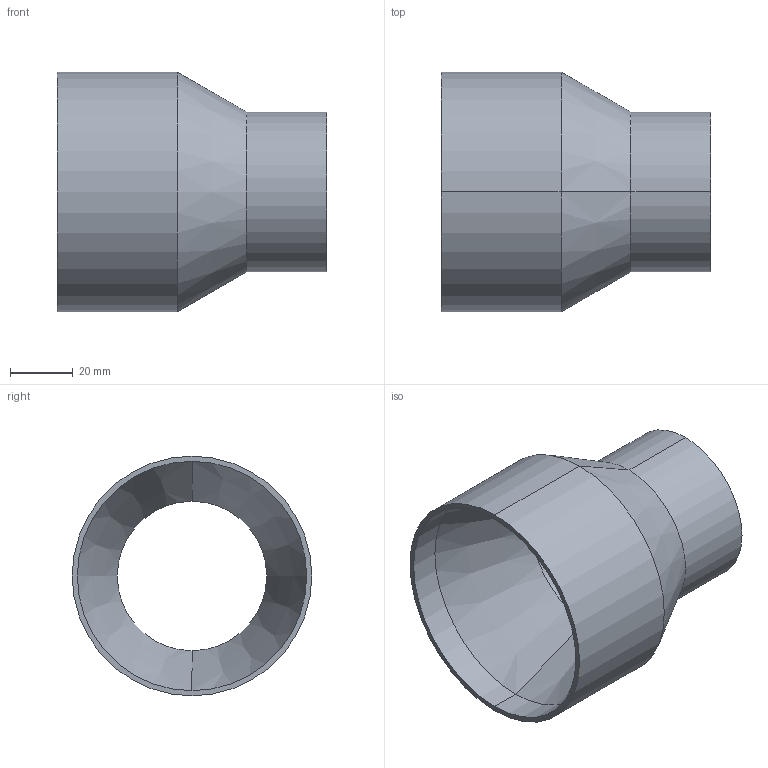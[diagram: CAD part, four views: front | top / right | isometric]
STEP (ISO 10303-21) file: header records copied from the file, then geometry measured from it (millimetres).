
FILE_DESCRIPTION (( 'STEP AP214' ), '1' );
FILE_NAME ('TE31SWW6L3.0x2.0-...STEP', '2016-05-29T09:58:59', ( 'eran' ), ( '' ), 'SwSTEP 2.0', 'SolidWorks 2016', '' );
FILE_SCHEMA (( 'AUTOMOTIVE_DESIGN' ));
Length unit declared in the file: millimetre
Products named in the file (1): TE31SWW6L3.0x2.0-..
Bounding box: 85.72 x 76.2 x 76.2 mm (x, y, z)
Volume: 86933.2 mm3; surface area: 34189.5 mm2
Topology: 1 solids, 1 shells, 14 faces, 28 edges, 16 vertices
Faces by surface type: cylinder 8, cone 4, plane 2
Entity records: 402 total; most frequent: DIRECTION 74, CARTESIAN_POINT 59, ORIENTED_EDGE 56, AXIS2_PLACEMENT_3D 31, EDGE_CURVE 28, EDGE_LOOP 16, VERTEX_POINT 16, CIRCLE 16
